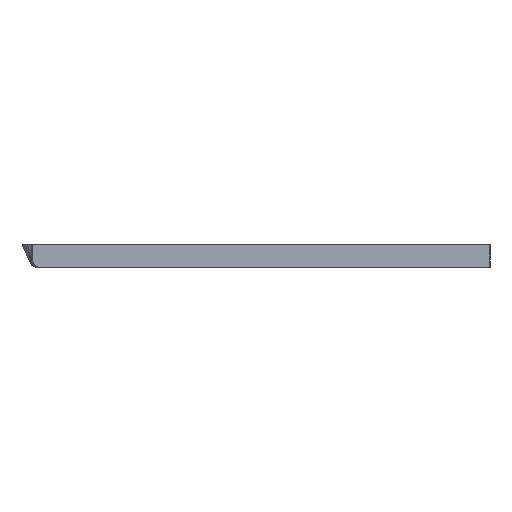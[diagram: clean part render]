
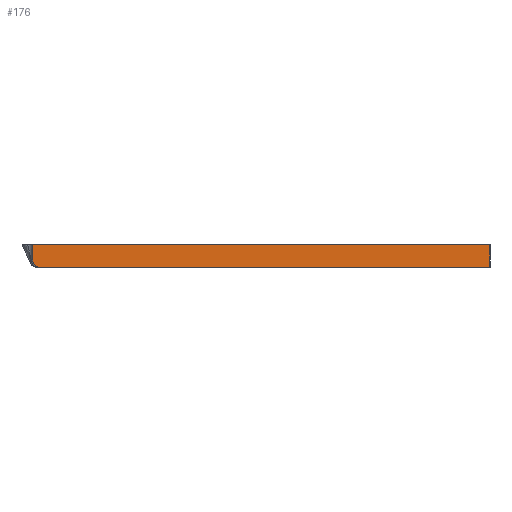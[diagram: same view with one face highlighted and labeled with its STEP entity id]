
A CAD part, left-side view. The second image highlights one B-rep face of the part: STEP entity #176.
In plain terms, the highlighted planar face has unit normal (-1, 0, 0).
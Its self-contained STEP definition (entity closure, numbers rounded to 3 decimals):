
#7 = ORIENTED_EDGE ( 'NONE', *, *, #110, .F. ) ;
#12 = ORIENTED_EDGE ( 'NONE', *, *, #423, .T. ) ;
#41 = CARTESIAN_POINT ( 'NONE',  ( 0., 60., 3. ) ) ;
#66 = DIRECTION ( 'NONE',  ( -1., 0., 0. ) ) ;
#74 = CARTESIAN_POINT ( 'NONE',  ( 0., 60., 1. ) ) ;
#93 = DIRECTION ( 'NONE',  ( 0., -1., 0. ) ) ;
#101 = EDGE_CURVE ( 'NONE', #721, #744, #648, .T. ) ;
#109 = LINE ( 'NONE', #413, #440 ) ;
#110 = EDGE_CURVE ( 'NONE', #160, #721, #788, .T. ) ;
#144 = AXIS2_PLACEMENT_3D ( 'NONE', #210, #66, #203 ) ;
#160 = VERTEX_POINT ( 'NONE', #389 ) ;
#176 = ADVANCED_FACE ( 'NONE', ( #177 ), #230, .F. ) ;
#177 = FACE_OUTER_BOUND ( 'NONE', #295, .T. ) ;
#181 = ORIENTED_EDGE ( 'NONE', *, *, #101, .F. ) ;
#201 = DIRECTION ( 'NONE',  ( 0., 0., -1. ) ) ;
#203 = DIRECTION ( 'NONE',  ( 0., 0., -1. ) ) ;
#210 = CARTESIAN_POINT ( 'NONE',  ( 0., 59., 1. ) ) ;
#229 = CARTESIAN_POINT ( 'NONE',  ( 0., 0., 3. ) ) ;
#230 = PLANE ( 'NONE',  #673 ) ;
#235 = CARTESIAN_POINT ( 'NONE',  ( 0., 0., 3. ) ) ;
#256 = CARTESIAN_POINT ( 'NONE',  ( 0., 59., 0. ) ) ;
#261 = DIRECTION ( 'NONE',  ( 0., 0., -1. ) ) ;
#268 = CARTESIAN_POINT ( 'NONE',  ( 0., 0., 0. ) ) ;
#283 = EDGE_CURVE ( 'NONE', #864, #744, #109, .T. ) ;
#295 = EDGE_LOOP ( 'NONE', ( #343, #12, #899, #181, #7 ) ) ;
#301 = CIRCLE ( 'NONE', #144, 1. ) ;
#303 = CARTESIAN_POINT ( 'NONE',  ( 0., 0., 3. ) ) ;
#333 = VECTOR ( 'NONE', #201, 1000. ) ;
#343 = ORIENTED_EDGE ( 'NONE', *, *, #865, .T. ) ;
#365 = VECTOR ( 'NONE', #93, 1000. ) ;
#389 = CARTESIAN_POINT ( 'NONE',  ( 0., 60., 3. ) ) ;
#413 = CARTESIAN_POINT ( 'NONE',  ( 0., 0., 0. ) ) ;
#423 = EDGE_CURVE ( 'NONE', #425, #864, #301, .T. ) ;
#425 = VERTEX_POINT ( 'NONE', #74 ) ;
#440 = VECTOR ( 'NONE', #672, 1000. ) ;
#511 = VECTOR ( 'NONE', #514, 1000. ) ;
#514 = DIRECTION ( 'NONE',  ( 0., 0., -1. ) ) ;
#648 = LINE ( 'NONE', #235, #511 ) ;
#665 = CARTESIAN_POINT ( 'NONE',  ( 0., 0., 3. ) ) ;
#672 = DIRECTION ( 'NONE',  ( 0., -1., 0. ) ) ;
#673 = AXIS2_PLACEMENT_3D ( 'NONE', #303, #816, #261 ) ;
#721 = VERTEX_POINT ( 'NONE', #665 ) ;
#744 = VERTEX_POINT ( 'NONE', #268 ) ;
#756 = LINE ( 'NONE', #41, #333 ) ;
#788 = LINE ( 'NONE', #229, #365 ) ;
#816 = DIRECTION ( 'NONE',  ( 1., 0., 0. ) ) ;
#864 = VERTEX_POINT ( 'NONE', #256 ) ;
#865 = EDGE_CURVE ( 'NONE', #160, #425, #756, .T. ) ;
#899 = ORIENTED_EDGE ( 'NONE', *, *, #283, .T. ) ;
